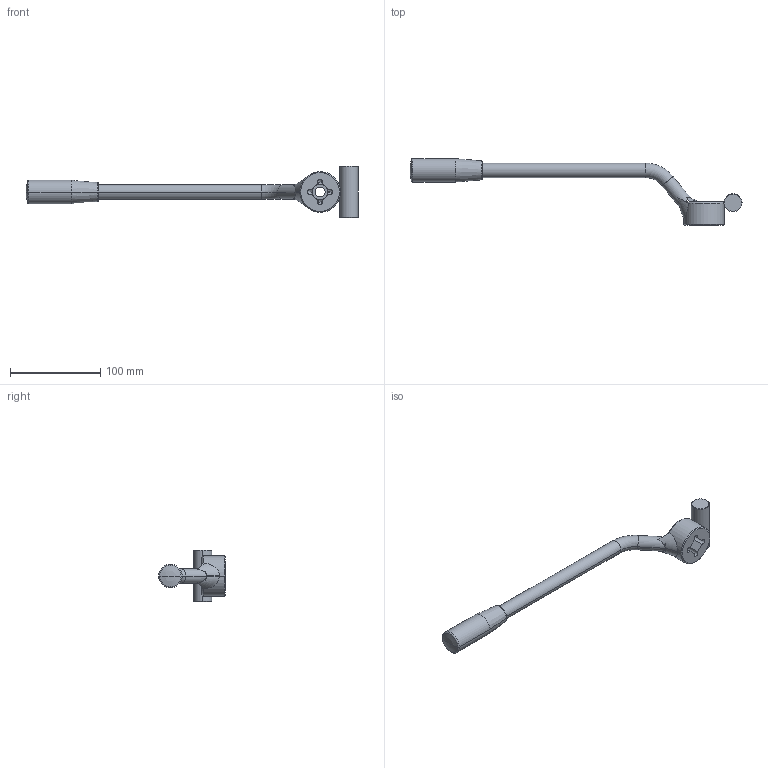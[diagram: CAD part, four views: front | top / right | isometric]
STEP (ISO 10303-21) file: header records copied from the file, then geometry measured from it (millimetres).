
FILE_DESCRIPTION((''),'2;1');
FILE_NAME('93541126550_ASM','2021-02-04T08:36:27',('alfio.taboni'),('CDM Tecnoconsulting'),'CREO PARAMETRIC BY PTC INC, 2020053','CREO PARAMETRIC BY PTC INC, 2020053','');
FILE_SCHEMA(('CONFIG_CONTROL_DESIGN','SHAPE_APPEARANCE_LAYERS_GROUPS'));
Length unit declared in the file: millimetre
Products named in the file (6): 93611006540; 93710106540; 94511206540; 93910126550_ASM; 9381000M540; 93541126550_ASM
Assembly tree (5 placements, depth 3):
  93541126550_ASM
    93910126550_ASM
      93611006540
      93710106540
      94511206540
    9381000M540
Bounding box: 368.5 x 74 x 57 mm (x, y, z)
Volume: 135590.4 mm3; surface area: 36795.8 mm2
Topology: 4 solids, 7 shells, 197 faces, 516 edges, 329 vertices
Faces by surface type: plane 122, cylinder 33, cone 24, torus 10, bspline 6, sphere 2
Entity records: 6950 total; most frequent: CARTESIAN_POINT 1727, DIRECTION 1018, ORIENTED_EDGE 993, EDGE_CURVE 506, VECTOR 366, LINE 366, VERTEX_POINT 329, AXIS2_PLACEMENT_3D 326
